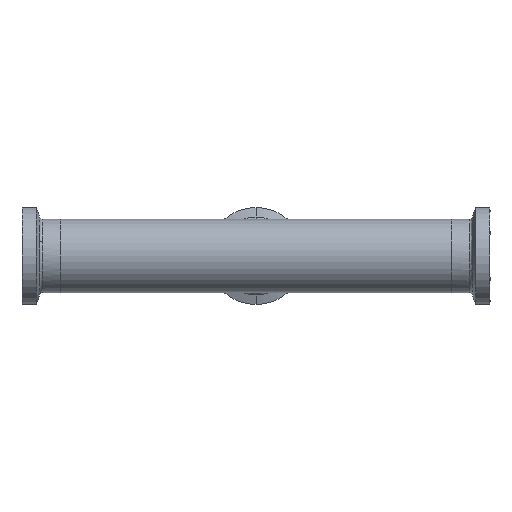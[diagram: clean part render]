
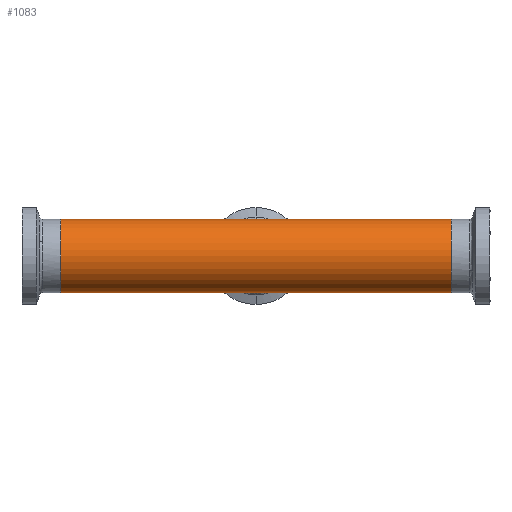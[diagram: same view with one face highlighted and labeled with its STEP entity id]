
A CAD part, front view. The second image highlights one B-rep face of the part: STEP entity #1083.
In plain terms, the highlighted cylindrical face has radius 9.525 mm (diameter 19.05 mm), a partial arc.
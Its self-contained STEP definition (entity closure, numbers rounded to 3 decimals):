
#44 = CARTESIAN_POINT ( 'NONE',  ( 77.241, 0., 9.525 ) ) ;
#63 = CARTESIAN_POINT ( 'NONE',  ( -50.3, 0., -9.525 ) ) ;
#101 = CIRCLE ( 'NONE', #1554, 9.525 ) ;
#104 = ORIENTED_EDGE ( 'NONE', *, *, #821, .T. ) ;
#154 = EDGE_CURVE ( 'NONE', #1876, #2095, #101, .T. ) ;
#155 = DIRECTION ( 'NONE',  ( -1., 0., 0. ) ) ;
#282 = DIRECTION ( 'NONE',  ( -1., 0., 0. ) ) ;
#308 = ORIENTED_EDGE ( 'NONE', *, *, #2474, .F. ) ;
#355 = CARTESIAN_POINT ( 'NONE',  ( 50.3, 0., -9.525 ) ) ;
#670 = VERTEX_POINT ( 'NONE', #63 ) ;
#673 = VECTOR ( 'NONE', #282, 1000. ) ;
#750 = EDGE_CURVE ( 'NONE', #1892, #670, #1974, .T. ) ;
#821 = EDGE_CURVE ( 'NONE', #1856, #1892, #1834, .T. ) ;
#896 = EDGE_CURVE ( 'NONE', #1251, #670, #2280, .T. ) ;
#966 = DIRECTION ( 'NONE',  ( -1., 0., 0. ) ) ;
#986 = VECTOR ( 'NONE', #1303, 1000. ) ;
#1000 = ORIENTED_EDGE ( 'NONE', *, *, #750, .T. ) ;
#1014 = DIRECTION ( 'NONE',  ( 0., 0., 1. ) ) ;
#1018 = CARTESIAN_POINT ( 'NONE',  ( -50.3, 0., 9.525 ) ) ;
#1074 = FACE_OUTER_BOUND ( 'NONE', #1687, .T. ) ;
#1083 = ADVANCED_FACE ( 'NONE', ( #1074 ), #2664, .T. ) ;
#1101 = CARTESIAN_POINT ( 'NONE',  ( 77.241, 0., 0. ) ) ;
#1119 = DIRECTION ( 'NONE',  ( 0., 0., 1. ) ) ;
#1139 = ORIENTED_EDGE ( 'NONE', *, *, #896, .F. ) ;
#1204 = CARTESIAN_POINT ( 'NONE',  ( 0., 0., 9.525 ) ) ;
#1251 = VERTEX_POINT ( 'NONE', #2297 ) ;
#1254 = CARTESIAN_POINT ( 'NONE',  ( 77.241, 0., -9.525 ) ) ;
#1303 = DIRECTION ( 'NONE',  ( -1., 0., 0. ) ) ;
#1323 = ORIENTED_EDGE ( 'NONE', *, *, #2116, .T. ) ;
#1421 = VECTOR ( 'NONE', #2797, 1000. ) ;
#1456 = CARTESIAN_POINT ( 'NONE',  ( 77.241, 0., -9.525 ) ) ;
#1463 = VECTOR ( 'NONE', #155, 1000. ) ;
#1554 = AXIS2_PLACEMENT_3D ( 'NONE', #2348, #2320, #2303 ) ;
#1565 = ORIENTED_EDGE ( 'NONE', *, *, #154, .T. ) ;
#1621 = DIRECTION ( 'NONE',  ( 1., 0., 0. ) ) ;
#1687 = EDGE_LOOP ( 'NONE', ( #308, #1565, #1323, #104, #1000, #1139 ) ) ;
#1834 = LINE ( 'NONE', #44, #673 ) ;
#1856 = VERTEX_POINT ( 'NONE', #1204 ) ;
#1876 = VERTEX_POINT ( 'NONE', #355 ) ;
#1892 = VERTEX_POINT ( 'NONE', #1018 ) ;
#1974 = CIRCLE ( 'NONE', #2124, 9.525 ) ;
#2095 = VERTEX_POINT ( 'NONE', #2186 ) ;
#2116 = EDGE_CURVE ( 'NONE', #2095, #1856, #2580, .T. ) ;
#2124 = AXIS2_PLACEMENT_3D ( 'NONE', #2519, #1621, #1014 ) ;
#2176 = CARTESIAN_POINT ( 'NONE',  ( 77.241, 0., 9.525 ) ) ;
#2186 = CARTESIAN_POINT ( 'NONE',  ( 50.3, 0., 9.525 ) ) ;
#2280 = LINE ( 'NONE', #1254, #986 ) ;
#2297 = CARTESIAN_POINT ( 'NONE',  ( 0., 0., -9.525 ) ) ;
#2303 = DIRECTION ( 'NONE',  ( 0., 0., 1. ) ) ;
#2320 = DIRECTION ( 'NONE',  ( -1., 0., 0. ) ) ;
#2348 = CARTESIAN_POINT ( 'NONE',  ( 50.3, 0., 0. ) ) ;
#2474 = EDGE_CURVE ( 'NONE', #1876, #1251, #2612, .T. ) ;
#2519 = CARTESIAN_POINT ( 'NONE',  ( -50.3, 0., 0. ) ) ;
#2563 = AXIS2_PLACEMENT_3D ( 'NONE', #1101, #966, #1119 ) ;
#2580 = LINE ( 'NONE', #2176, #1421 ) ;
#2612 = LINE ( 'NONE', #1456, #1463 ) ;
#2664 = CYLINDRICAL_SURFACE ( 'NONE', #2563, 9.525 ) ;
#2797 = DIRECTION ( 'NONE',  ( -1., 0., 0. ) ) ;
